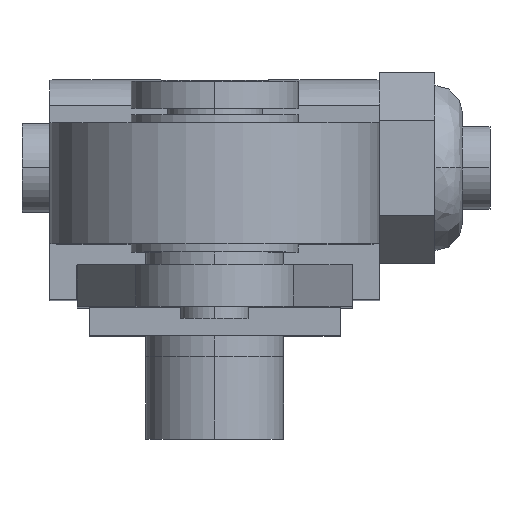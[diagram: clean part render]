
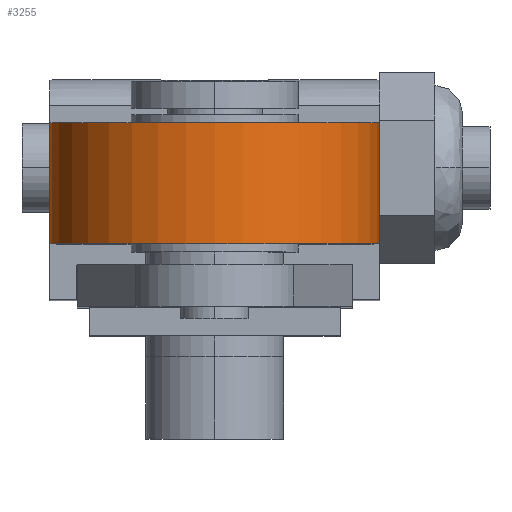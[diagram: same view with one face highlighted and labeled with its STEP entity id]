
A CAD part, top view. The second image highlights one B-rep face of the part: STEP entity #3255.
In plain terms, the highlighted cylindrical face has radius 9.525 mm (diameter 19.05 mm), a partial arc.
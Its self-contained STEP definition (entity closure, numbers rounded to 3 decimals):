
#443 = DIRECTION ( 'NONE',  ( 0., -1., 0. ) ) ;
#444 = VECTOR ( 'NONE', #443, 1000. ) ;
#445 = CARTESIAN_POINT ( 'NONE',  ( 9.525, -9.538, 50.216 ) ) ;
#446 = LINE ( 'NONE', #445, #444 ) ;
#448 = CARTESIAN_POINT ( 'NONE',  ( 9.525, -9.538, 50.216 ) ) ;
#449 = DIRECTION ( 'NONE',  ( 1., 0., 0. ) ) ;
#450 = DIRECTION ( 'NONE',  ( 0., 1., 0. ) ) ;
#451 = CARTESIAN_POINT ( 'NONE',  ( 0., -9.538, 50.216 ) ) ;
#452 = AXIS2_PLACEMENT_3D ( 'NONE', #451, #450, #449 ) ;
#453 = CIRCLE ( 'NONE', #452, 9.525 ) ;
#454 = CARTESIAN_POINT ( 'NONE',  ( -9.525, -9.538, 50.216 ) ) ;
#455 = DIRECTION ( 'NONE',  ( 0., -1., 0. ) ) ;
#456 = VECTOR ( 'NONE', #455, 1000. ) ;
#457 = CARTESIAN_POINT ( 'NONE',  ( -9.525, -9.538, 50.216 ) ) ;
#458 = LINE ( 'NONE', #457, #456 ) ;
#459 = CARTESIAN_POINT ( 'NONE',  ( -9.525, -2.553, 50.216 ) ) ;
#558 = FACE_OUTER_BOUND ( 'NONE', #3252, .T. ) ;
#582 = CARTESIAN_POINT ( 'NONE',  ( 9.525, -2.553, 50.216 ) ) ;
#583 = DIRECTION ( 'NONE',  ( 1., 0., 0. ) ) ;
#584 = DIRECTION ( 'NONE',  ( 0., -1., 0. ) ) ;
#585 = AXIS2_PLACEMENT_3D ( 'NONE', #591, #584, #583 ) ;
#586 = CIRCLE ( 'NONE', #585, 9.525 ) ;
#587 = DIRECTION ( 'NONE',  ( 1., 0., 0. ) ) ;
#588 = DIRECTION ( 'NONE',  ( 0., -1., 0. ) ) ;
#589 = AXIS2_PLACEMENT_3D ( 'NONE', #592, #588, #587 ) ;
#590 = CYLINDRICAL_SURFACE ( 'NONE', #589, 9.525 ) ;
#591 = CARTESIAN_POINT ( 'NONE',  ( 0., -2.553, 50.216 ) ) ;
#592 = CARTESIAN_POINT ( 'NONE',  ( 0., -9.538, 50.216 ) ) ;
#3214 = VERTEX_POINT ( 'NONE', #459 ) ;
#3215 = ORIENTED_EDGE ( 'NONE', *, *, #3216, .T. ) ;
#3216 = EDGE_CURVE ( 'NONE', #3214, #3217, #458, .T. ) ;
#3217 = VERTEX_POINT ( 'NONE', #454 ) ;
#3218 = ORIENTED_EDGE ( 'NONE', *, *, #3219, .T. ) ;
#3219 = EDGE_CURVE ( 'NONE', #3217, #3220, #453, .T. ) ;
#3220 = VERTEX_POINT ( 'NONE', #448 ) ;
#3221 = ORIENTED_EDGE ( 'NONE', *, *, #3222, .F. ) ;
#3222 = EDGE_CURVE ( 'NONE', #3258, #3220, #446, .T. ) ;
#3252 = EDGE_LOOP ( 'NONE', ( #3256, #3215, #3218, #3221 ) ) ;
#3255 = ADVANCED_FACE ( 'NONE', ( #558 ), #590, .T. ) ;
#3256 = ORIENTED_EDGE ( 'NONE', *, *, #3257, .T. ) ;
#3257 = EDGE_CURVE ( 'NONE', #3258, #3214, #586, .T. ) ;
#3258 = VERTEX_POINT ( 'NONE', #582 ) ;
